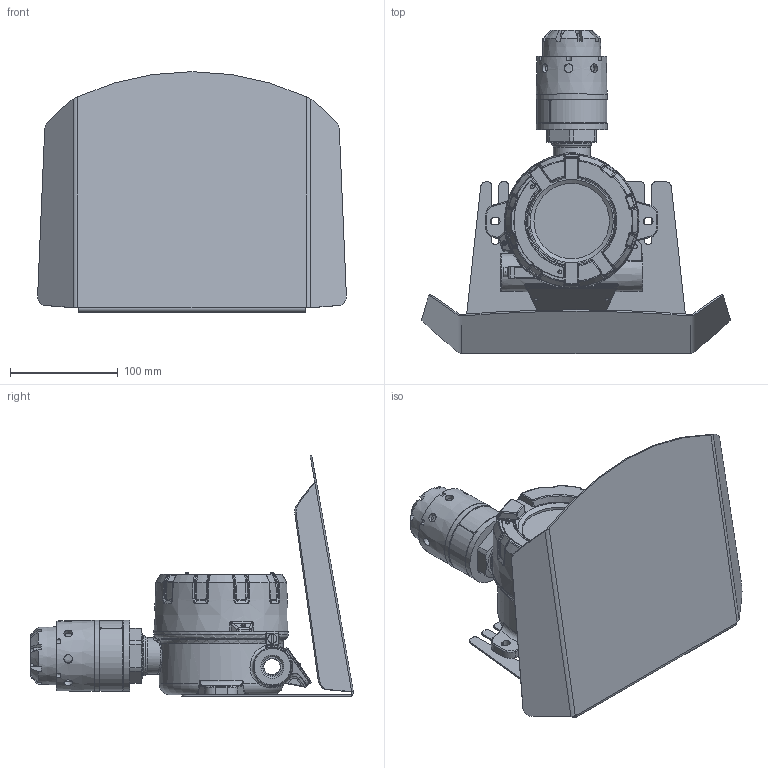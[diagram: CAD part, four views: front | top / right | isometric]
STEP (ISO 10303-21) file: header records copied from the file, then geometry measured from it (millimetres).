
FILE_DESCRIPTION(('STEP AP214'), '1');
FILE_NAME('ÄÃÑ ÝÐÈÑ-210 (êîðïóñ òèïà Á) ñ êîçûðüêîì_3D ìîäåëü', '', ('UNSPECIFIED'), ('UNSPECIFIED'), 'C3D Converter', 'C3D Toolkit', '');
FILE_SCHEMA(('AUTOMOTIVE_DESIGN { 1 0 10303 214 3 1 1}'));
Length unit declared in the file: millimetre
Products named in the file (1): АПНС.413216.212
Bounding box: 286.61 x 299.82 x 223.34 mm (x, y, z)
Volume: 888817.6 mm3; surface area: 466729.6 mm2
Topology: 32 solids, 32 shells, 1606 faces, 4046 edges, 2486 vertices
Faces by surface type: plane 482, bspline 455, cylinder 387, cone 175, torus 93, sphere 14
Full cylindrical faces by diameter (mm): 0.8 x3, 1.4 x9, 2 x9, 2.459 x11, 2.5 x4, 3.242 x2, 3.5 x2, 3.6 x4, 4 x3, 4.134 x1, 4.5 x1, 5 x2, 5.064 x1, 6 x1, 7 x1, 7.5 x1, 7.95 x8, 8.5 x1, 10 x1, 10.106 x1, 10.15 x1, 11.4 x1, 17 x1, 18.376 x3, 20 x1, 30 x3, 32 x2, 34 x1, 37.033 x1, 38 x1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
Entity records: 118131 total; most frequent: CARTESIAN_POINT 71750, ORIENTED_EDGE 7548, DIRECTION 5446, EDGE_CURVE 3774, VERTEX_POINT 2466, AXIS2_PLACEMENT_3D 2204, EDGE_LOOP 1930, COLOUR_RGB 1638
